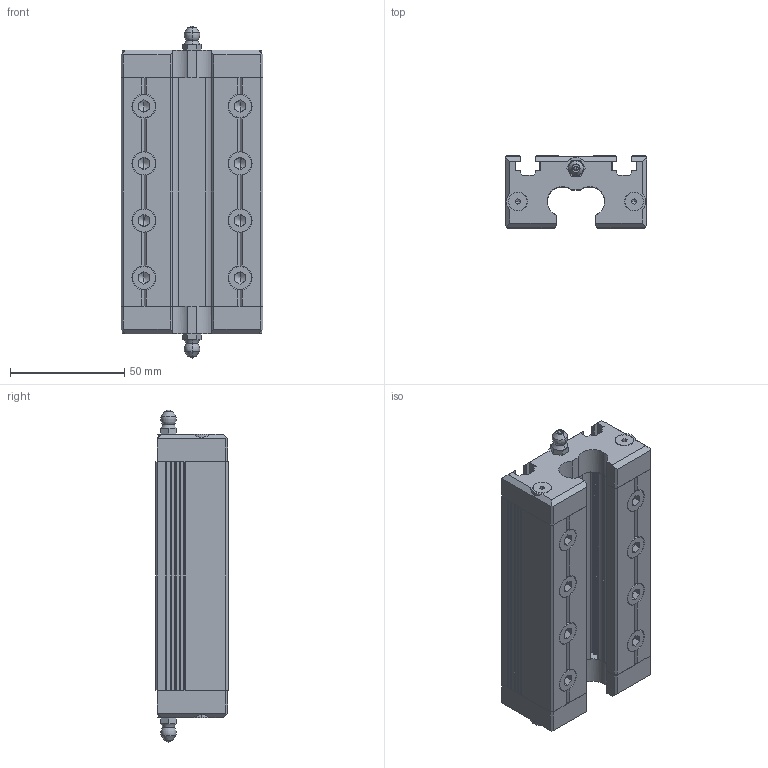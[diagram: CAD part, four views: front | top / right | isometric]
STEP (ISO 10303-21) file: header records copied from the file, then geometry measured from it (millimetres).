
FILE_DESCRIPTION (( 'STEP AP203' ), '1' );
FILE_NAME ('Wellenschlitten WS 4 - 124lg.STEP', '2005-06-07T08:20:58', ( ' ' ), ( ' ' ), 'SwSTEP 2.0', 'SolidWorks 2005143', '' );
FILE_SCHEMA (( 'CONFIG_CONTROL_DESIGN' ));
Length unit declared in the file: millimetre
Products named in the file (1): Wellenschlitten WS 4 - 124lg
Bounding box: 62 x 31.5 x 145.1 mm (x, y, z)
Volume: 165340.9 mm3; surface area: 48007.8 mm2
Topology: 1 solids, 1 shells, 589 faces, 1559 edges, 980 vertices
Faces by surface type: plane 412, cylinder 137, cone 28, torus 8, sphere 4
Entity records: 18292 total; most frequent: CARTESIAN_POINT 3737, ORIENTED_EDGE 3070, DIRECTION 2969, EDGE_CURVE 1535, VECTOR 1041, LINE 1041, VERTEX_POINT 980, AXIS2_PLACEMENT_3D 964
